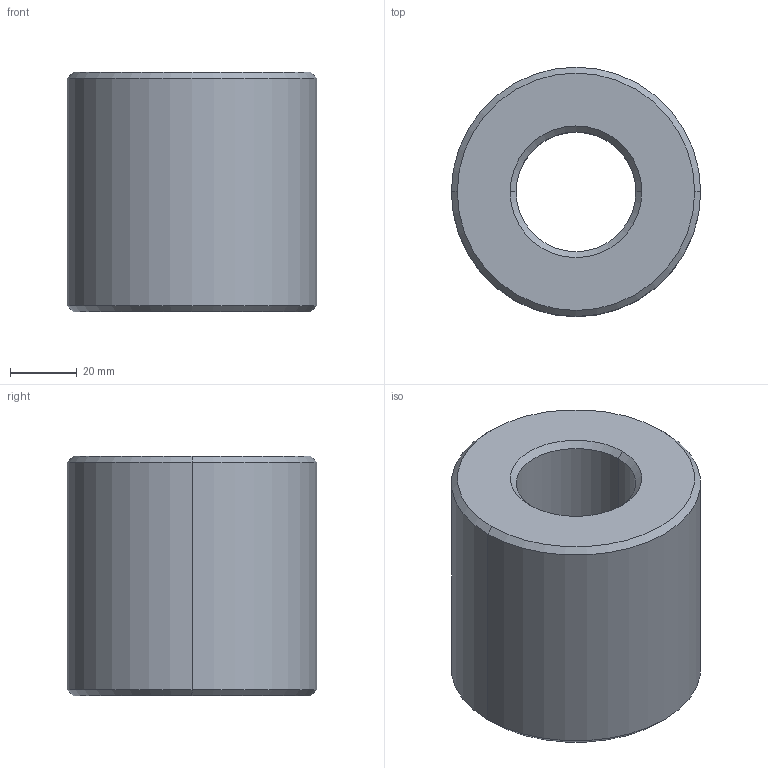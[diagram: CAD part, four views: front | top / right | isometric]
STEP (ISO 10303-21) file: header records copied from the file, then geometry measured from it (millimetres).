
FILE_DESCRIPTION (( 'STEP AP203' ), '1' );
FILE_NAME ('L1330.L36-06.step', '2024-10-24T09:23:39', ( '' ), ( '' ), 'SwSTEP 2.0', 'SolidWorks 2019', '' );
FILE_SCHEMA (( 'CONFIG_CONTROL_DESIGN' ));
Length unit declared in the file: millimetre
Products named in the file (1): L1330.L36-06
Bounding box: 75 x 75 x 72 mm (x, y, z)
Volume: 243669.3 mm3; surface area: 31172.2 mm2
Topology: 1 solids, 1 shells, 14 faces, 28 edges, 16 vertices
Faces by surface type: cone 8, cylinder 4, plane 2
Entity records: 445 total; most frequent: DIRECTION 74, CARTESIAN_POINT 59, ORIENTED_EDGE 56, AXIS2_PLACEMENT_3D 31, EDGE_CURVE 28, CIRCLE 16, VERTEX_POINT 16, EDGE_LOOP 16
